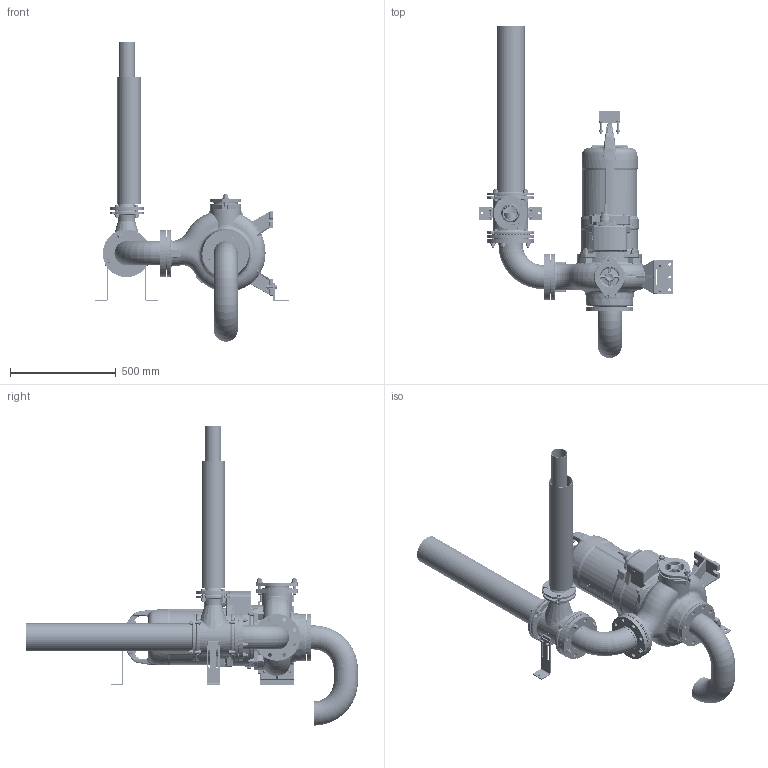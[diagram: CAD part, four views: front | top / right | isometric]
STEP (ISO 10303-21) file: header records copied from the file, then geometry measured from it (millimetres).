
FILE_DESCRIPTION(/* description */ (''),/* implementation_level */ '2;1');
FILE_NAME(/* name */ 'H:\3D\Projekte\@Wirbeljet\700 Amajet_2021_step\Amajet_M_Gully_suction_KA_16.stp',/* time_stamp */ '2021-04-12T22:44:41+02:00',/* author */ ('emmrpat'),/* organization */ (''),/* preprocessor_version */ 'ST-DEVELOPER v18',/* originating_system */ 'Autodesk Inventor 2020',/* authorisation */ '');
FILE_SCHEMA (('AUTOMOTIVE_DESIGN { 1 0 10303 214 3 1 1 }'));
Length unit declared in the file: millimetre
Products named in the file (58): Amajet_M_Gully_suction_KA_16; Dichtung1_DN100_5mm; Flansch_0W308059; 0W308365_Vari_01_Duese; Strahlrohr_133mm_800mm; 0W308365_Vari_01_Duese_1; Dichtung_DN100_5mm; Dichtung_DN65_4mm_110; 0W308366_800mm_Belueftung; 0W308366_800mm_Rohr; Vorschweißflansch_DN65_PN6; Kabelschutzrohr_01; 0W382247_Mischkammer; Verstelllasche; ISO 7089 -  8; ISO 4762  - M8 x 16; FFQ-Stueck_DN100_Losflansche_183mm_Edelstahl; Aufstellung_03; KRT_100-250_komplett; Sewatec_100-250_0W383895_01; Putzlochdeckel_Z065469; ISO 4032 - M16; DIN 188 - M16 x 70; UG155595214_01; ug1004874zmn001_01; ug1004383zmn001_01; ug1510147zmk001_01_BODY; ug1510095zmk001_01; ug1510137zmk001_01; ug1510136zmk001_01; ug1510110zmk001_01; UG154735011ZMM001_02; UG153885001ZMM001_01; ug1012584zmn001_01; ug1002091zmn001_01; UG154911611ZMM001_04; ISO 4032 - M16_1; DIN 835 - M16 x 50; Stützwinkel_neu_01; Stützwinkel_neu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
Assembly tree (153 placements, depth 5):
  Amajet_M_Gully_suction_KA_16
    Dichtung1_DN100_5mm  x3
    Flansch_0W308059
    Dichtung_DN100_5mm  x2
    0W308365_Vari_01_Duese
    Strahlrohr_133mm_800mm
    0W308365_Vari_01_Duese_1
    Dichtung_DN65_4mm_110
    0W308366_800mm_Belueftung
      0W308366_800mm_Rohr
      Vorschweißflansch_DN65_PN6
    Kabelschutzrohr_01
    0W382247_Mischkammer
    Verstelllasche  x2
    ISO 7089 -  8  x4
    ISO 4762  - M8 x 16  x4
    FFQ-Stueck_DN100_Losflansche_183mm_Edelstahl
    Aufstellung_03
      KRT_100-250_komplett
        Sewatec_100-250_0W383895_01
        Putzlochdeckel_Z065469
        ISO 4032 - M16  x2
        ISO 7089 -  16  x2
        DIN 188 - M16 x 70  x2
      UG155595214_01
        ug1004874zmn001_01  x4
        ug1004383zmn001_01  x2
        ug1510147zmk001_01_BODY
          ug1510095zmk001_01
          ug1510137zmk001_01  x12
          ug1510136zmk001_01
          ug1510110zmk001_01
        UG154735011ZMM001_02
        UG153885001ZMM001_01
        ug1012584zmn001_01
        ug1002091zmn001_01
        UG154911611ZMM001_04
        ISO 4032 - M16_1  x4
        ISO 7089 -  16  x4
        DIN 835 - M16 x 50  x4
    Stützwinkel_neu_01
      Stützwinkel_neu
      Klemmblech_neu
      ISO 4032 - M10  x2
      ISO 7089 - 10 - 140 HV  x2
      ISO 4017 - M10 x 55  x2
    Stützwinkel_Pumpe_S-Aufstellung
    ISO 7089 -  12  x28
    ISO 4032 - M12  x14
    ISO 4017 - M12 x 45  x2
    ISO 7089 -  16
    DIN 835 - M12 x 40  x4
    ISO 4017 - M12 x 30  x4
    ISO 4017 - M12 x 50  x4
    ISO 4017 - M12 x 55  x4
    ‎SLGS233-20-024
      Vorschweißbördel_30mm_DN100_PN10
      Bogen_DN100 BA3  x2
      Rohr_DN100_56mm
      Losflansch_DN100_PN10_12mm
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Bounding box: 914 x 1567.65 x 1414.15 mm (x, y, z)
Volume: 26283901.7 mm3; surface area: 6031725.9 mm2
Topology: 151 solids, 151 shells, 3915 faces, 9287 edges, 5730 vertices
Faces by surface type: plane 1335, cylinder 1010, bspline 715, torus 378, cone 344, sphere 133
Full cylindrical faces by diameter (mm): 3 x12, 3.05 x2, 3.3 x1, 4 x12, 5 x12, 6 x12, 6.8 x1, 7 x24, 8 x8, 8.376 x2, 8.4 x4, 8.5 x6, 10 x8, 10.106 x14, 10.5 x2, 11 x8, 11.5 x8, 12 x26, 13 x40, 13.835 x6, 14 x4, 14.63 x2, 15.25 x1, 16 x24, 16.63 x14, 16.662 x1, 17 x7, 17.1 x1, 17.5 x4, 18 x61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
Entity records: 133643 total; most frequent: CARTESIAN_POINT 60356, ORIENTED_EDGE 14680, DIRECTION 14494, EDGE_CURVE 7340, AXIS2_PLACEMENT_3D 6069, VERTEX_POINT 4535, EDGE_LOOP 3487, CIRCLE 3330
